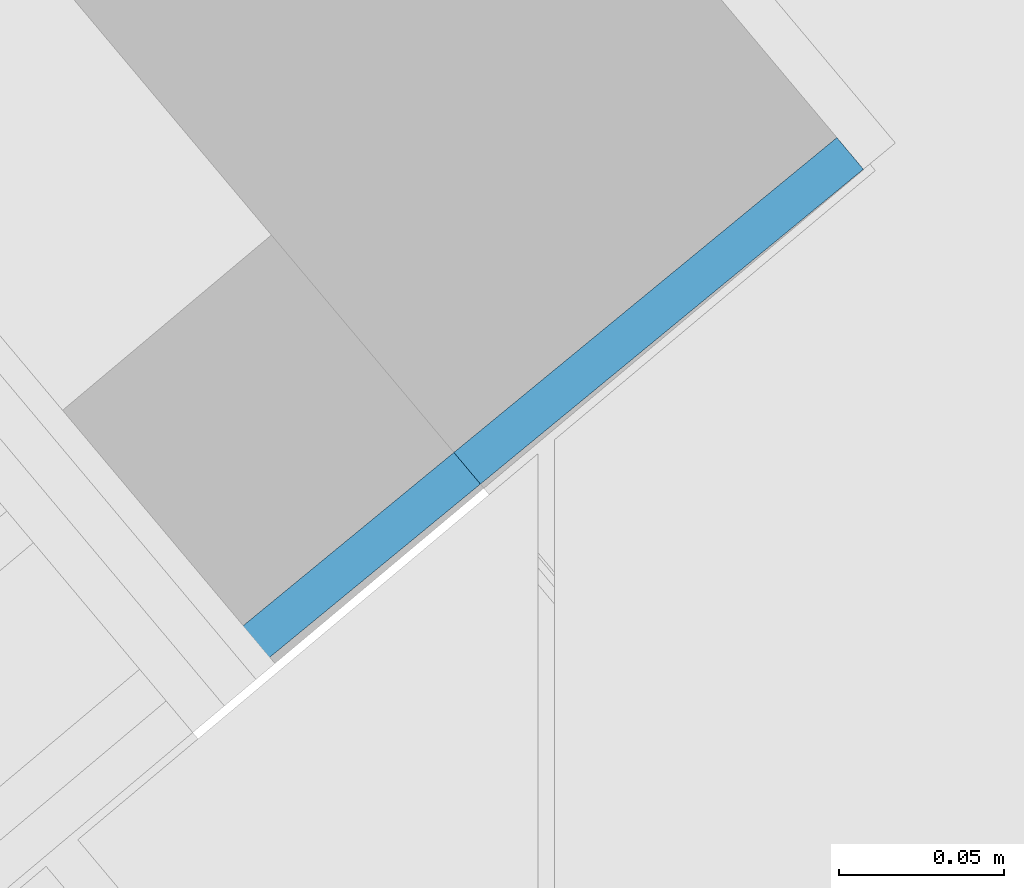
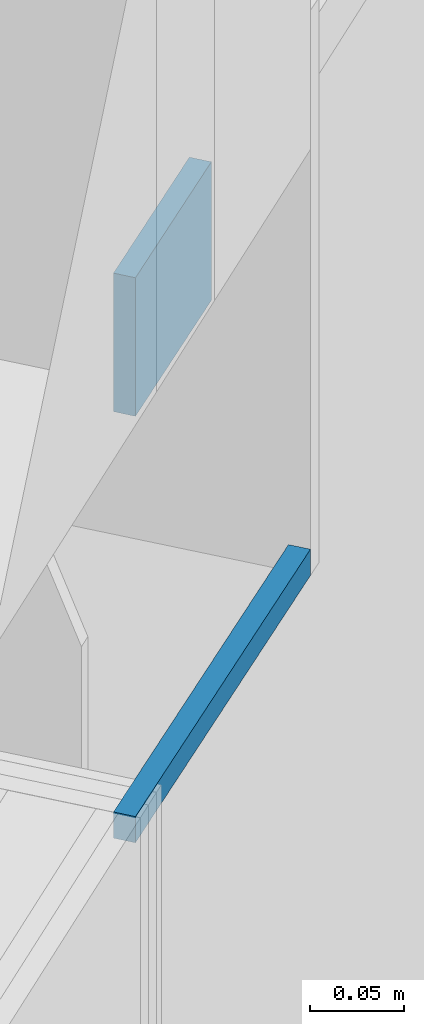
# One storey, part 38 of 321: 1 wall.
"""IFC2X3 building model written with IfcOpenShell, lengths in millimetres."""

from ifc_helpers import new_model, entity, si_unit, converted_unit, derived_unit, money_unit, direction, frame, origin_with_axes, place, context, subcontext, project, spatial, faceted_brep, material, type_object, element, save


model = new_model("IFC2X3")

# Units and contexts
model_context = context("Model", 3, precision=0.01, world=origin_with_axes(), true_north=direction((0.0, 1.0)))
plan_context = context("Plan", 3, precision=0.01, world=origin_with_axes(), true_north=direction((0.0, 1.0)))
body_context = subcontext(model_context, "Body", "Model", "MODEL_VIEW")
ifc_project = project(units=[si_unit("LENGTHUNIT", "METRE", prefix="MILLI"), si_unit("AREAUNIT", "SQUARE_METRE"), si_unit("VOLUMEUNIT", "CUBIC_METRE"), converted_unit("PLANEANGLEUNIT", "DEGREE", entity("IfcPlaneAngleMeasure", 0.0174532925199), si_unit("PLANEANGLEUNIT", "RADIAN"), dimensions=[0, 0, 0, 0, 0, 0, 0]), money_unit("EUR"), converted_unit("TIMEUNIT", "Year", entity("IfcTimeMeasure", 31556926.0), si_unit("TIMEUNIT", "SECOND"), dimensions=[0, 0, 1, 0, 0, 0, 0]), si_unit("MASSUNIT", "GRAM", prefix="KILO"), si_unit("THERMODYNAMICTEMPERATUREUNIT", "DEGREE_CELSIUS"), si_unit("LUMINOUSINTENSITYUNIT", "LUMEN"), si_unit("ENERGYUNIT", "JOULE", prefix="MEGA"), derived_unit("THERMALCONDUCTANCEUNIT", [(si_unit("POWERUNIT", "WATT"), 1), (si_unit("LENGTHUNIT", "METRE"), -1), (si_unit("THERMODYNAMICTEMPERATUREUNIT", "KELVIN"), -1)]), derived_unit("SPECIFICHEATCAPACITYUNIT", [(si_unit("ENERGYUNIT", "JOULE"), 1), (si_unit("MASSUNIT", "GRAM", prefix="KILO"), -1), (si_unit("THERMODYNAMICTEMPERATUREUNIT", "KELVIN"), -1)]), derived_unit("MASSDENSITYUNIT", [(si_unit("MASSUNIT", "GRAM", prefix="KILO"), 1), (si_unit("VOLUMEUNIT", "CUBIC_METRE"), -1)])], contexts=[model_context, plan_context])

# Site, building, storey
site_placement = place(None, origin_with_axes())
site = spatial("IfcSite", under=ifc_project, at=site_placement, Name="Fortuinstraat Woensdrecht", CompositionType="ELEMENT")
building_placement = place(site_placement, origin_with_axes())
building = spatial("IfcBuilding", under=site, at=building_placement, Name="IKC Fortuna", CompositionType="ELEMENT")
storey_placement = place(building_placement, frame((0.0, 0.0, 4000.0), z_axis=(0.0, 0.0, 1.0), x_axis=(1.0, 0.0, 0.0)))
storey = spatial("IfcBuildingStorey", under=building, at=storey_placement, Name="01 eerste verdieping", CompositionType="ELEMENT", Elevation=4000.0)

# Wall
ifc_material = material(Name="Gipsplaat")
wall_type = type_object("IfcWallType", Name="Gipsplaat 13", PredefinedType="NOTDEFINED")
wall_placement = place(storey_placement, frame((19575.8476511, 4887.35438963, 1083.0), z_axis=(0.0, 0.0, 1.0), x_axis=(-0.772469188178, -0.635052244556, 0.0)))
element("IfcWall", 1, at=wall_placement, inside=storey, type_object=wall_type, material=ifc_material, Name="22_Wand_koof", context=body_context, shape_type="Brep", body=[
    faceted_brep([(12.6263305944, -12.5, 0.0), (245.075326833, -12.5, 0.0), (245.074650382, -12.5000068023, 17.0), (12.6208092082, -12.5000555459, 17.0), (252.638556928, -12.5, 0.0), (252.637792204, -12.4239526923, 0.0), (12.5006319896, 0.0, 0.0), (277.514330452, 0.0, 0.0), (277.514330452, -12.5, 0.0), (252.637792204, -12.4239526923, 17.0), (252.63855698, -12.5000052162, 17.0), (277.514330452, -12.5, 17.0), (277.514330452, 0.0, 17.0), (12.4950575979, -5.60791253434e-05, 17.0)], [[[0, 1, 2, 3]], [[4, 5, 1, 0, 6, 7, 8]], [[5, 9, 2, 1]], [[2, 9, 10, 11, 12, 13, 3]], [[6, 0, 3, 13]], [[4, 10, 9, 5]], [[7, 6, 13, 12]], [[8, 7, 12, 11]], [[11, 10, 4, 8]]]),
    faceted_brep([(277.514330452, 0.0, 367.0), (277.514330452, 0.0, 277.0), (162.508307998, 0.0, 277.0), (162.508307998, 0.0, 367.0), (277.514330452, -12.5, 367.0), (277.514330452, -12.5, 277.0), (162.634006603, -12.5, 277.0), (162.634006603, -12.5, 367.0)], [[[0, 1, 2, 3]], [[4, 5, 1, 0]], [[5, 6, 2, 1]], [[3, 2, 6, 7]], [[3, 7, 4, 0]], [[7, 6, 5, 4]]]),
])

save(model, "model.ifc")
